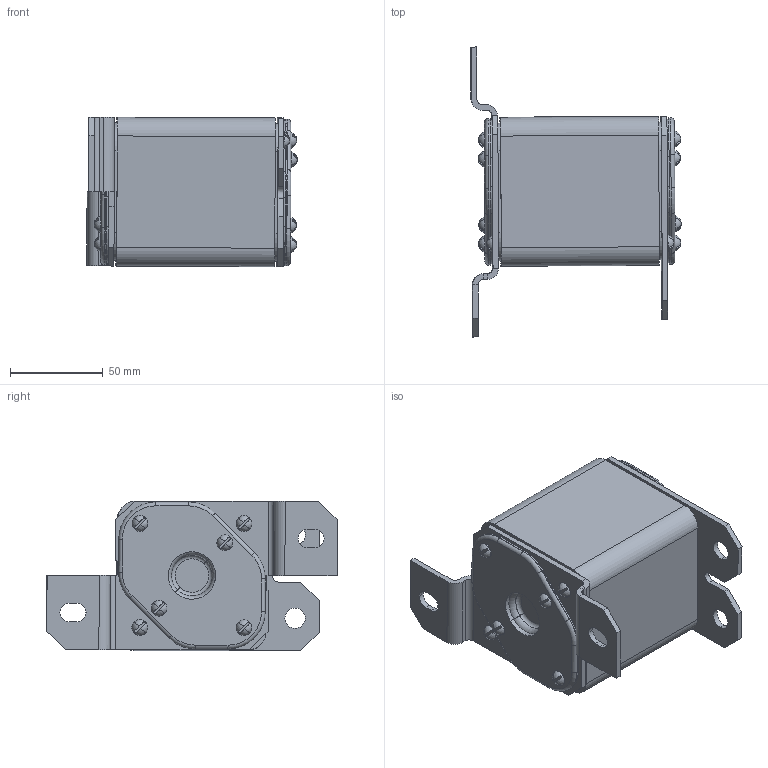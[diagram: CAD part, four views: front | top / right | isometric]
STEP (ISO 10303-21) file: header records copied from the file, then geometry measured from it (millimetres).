
FILE_DESCRIPTION (( 'STEP AP214' ), '1' );
FILE_NAME ('Ïðåäîõðàíèòåëü ÏÏ57-39980-èñï2.STEP', '2022-09-22T11:25:06', ( '' ), ( '' ), 'SwSTEP 2.0', 'SolidWorks 2018', '' );
FILE_SCHEMA (( 'AUTOMOTIVE_DESIGN' ));
Length unit declared in the file: millimetre
Products named in the file (9): Ïðîêëàäêà ÃÆÈÊ.741332.004_‘ ¢¬ïâ¨­®©; 妈眚 闷仁.758161.003_儐垔.758161.003-05; 署赅 闷仁.745152.009_-00; 噪囗弼 闷仁.741378.003; Òàáëè÷êà 32õ48; 噪囗弼 闷仁.745342.018; 扻豵鵨 弝偫80 85; Ïðîêëàäêà ÃÆÈÊ.741125.009; Ïðåäîõðàíèòåëü ÏÏ57-39980-èñï2
Assembly tree (22 placements, depth 2):
  Ïðåäîõðàíèòåëü ÏÏ57-39980-èñï2
    扻豵鵨 弝偫80 85
    Ïðîêëàäêà ÃÆÈÊ.741125.009  x2
    噪囗弼 闷仁.745342.018
    噪囗弼 闷仁.741378.003
    Ïðîêëàäêà ÃÆÈÊ.741332.004_‘ ¢¬ïâ¨­®©  x2
    署赅 闷仁.745152.009_-00  x2
    妈眚 闷仁.758161.003_儐垔.758161.003-05  x12
    Òàáëè÷êà 32õ48
Bounding box: 113.17 x 156.09 x 80.56 mm (x, y, z)
Volume: 390820.2 mm3; surface area: 148186.9 mm2
Topology: 22 solids, 22 shells, 548 faces, 1326 edges, 846 vertices
Faces by surface type: cylinder 231, plane 211, torus 52, cone 30, sphere 24
Entity records: 9566 total; most frequent: DIRECTION 1718, CARTESIAN_POINT 1544, ORIENTED_EDGE 1492, EDGE_CURVE 746, AXIS2_PLACEMENT_3D 650, VERTEX_POINT 476, VECTOR 418, LINE 418
